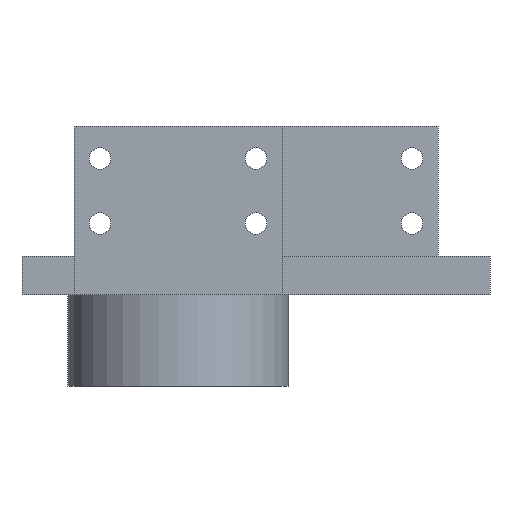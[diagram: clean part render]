
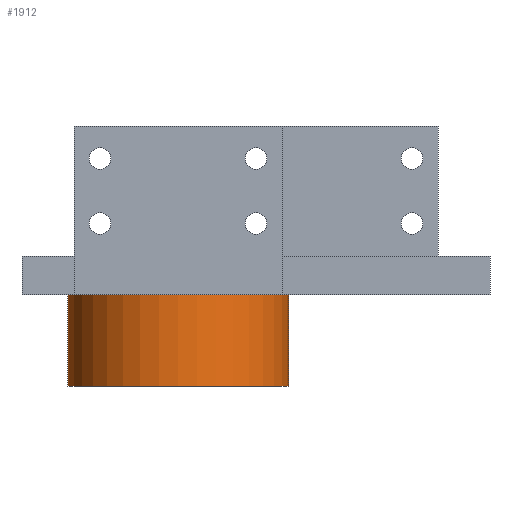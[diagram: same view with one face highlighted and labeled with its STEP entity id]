
A CAD part, front view. The second image highlights one B-rep face of the part: STEP entity #1912.
In plain terms, the highlighted cylindrical face has radius 17 mm (diameter 34 mm), a full revolution.
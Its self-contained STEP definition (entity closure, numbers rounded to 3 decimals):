
#72 = PLANE('',#73);
#73 = AXIS2_PLACEMENT_3D('',#74,#75,#76);
#74 = CARTESIAN_POINT('',(-24.,-19.8,-41.));
#75 = DIRECTION('',(0.,0.,1.));
#76 = DIRECTION('',(1.,0.,0.));
#737 = EDGE_CURVE('',#738,#738,#740,.T.);
#738 = VERTEX_POINT('',#739);
#739 = CARTESIAN_POINT('',(0.,17.,-41.));
#740 = SURFACE_CURVE('',#741,(#746,#757),.PCURVE_S1.);
#741 = CIRCLE('',#742,17.);
#742 = AXIS2_PLACEMENT_3D('',#743,#744,#745);
#743 = CARTESIAN_POINT('',(0.,0.,-41.));
#744 = DIRECTION('',(-0.,0.,-1.));
#745 = DIRECTION('',(0.,1.,0.));
#746 = PCURVE('',#72,#747);
#747 = DEFINITIONAL_REPRESENTATION('',(#748),#756);
#748 = ( BOUNDED_CURVE() B_SPLINE_CURVE(2,(#749,#750,#751,#752,#753,#754
,#755),.UNSPECIFIED.,.T.,.F.) B_SPLINE_CURVE_WITH_KNOTS((1,2,2,2,2,1),(
    -2.094,0.,2.094,4.189,6.283,
8.378),.UNSPECIFIED.) CURVE() GEOMETRIC_REPRESENTATION_ITEM() 
RATIONAL_B_SPLINE_CURVE((1.,0.5,1.,0.5,1.,0.5,1.)) REPRESENTATION_ITEM(
  '') );
#749 = CARTESIAN_POINT('',(24.,36.8));
#750 = CARTESIAN_POINT('',(53.445,36.8));
#751 = CARTESIAN_POINT('',(38.722,11.3));
#752 = CARTESIAN_POINT('',(24.,-14.2));
#753 = CARTESIAN_POINT('',(9.278,11.3));
#754 = CARTESIAN_POINT('',(-5.445,36.8));
#755 = CARTESIAN_POINT('',(24.,36.8));
#756 = ( GEOMETRIC_REPRESENTATION_CONTEXT(2) 
PARAMETRIC_REPRESENTATION_CONTEXT() REPRESENTATION_CONTEXT('2D SPACE',''
  ) );
#757 = PCURVE('',#758,#763);
#758 = CYLINDRICAL_SURFACE('',#759,17.);
#759 = AXIS2_PLACEMENT_3D('',#760,#761,#762);
#760 = CARTESIAN_POINT('',(0.,0.,-55.));
#761 = DIRECTION('',(-0.,0.,-1.));
#762 = DIRECTION('',(0.,1.,0.));
#763 = DEFINITIONAL_REPRESENTATION('',(#764),#768);
#764 = LINE('',#765,#766);
#765 = CARTESIAN_POINT('',(-6.283,-14.));
#766 = VECTOR('',#767,1.);
#767 = DIRECTION('',(1.,-0.));
#768 = ( GEOMETRIC_REPRESENTATION_CONTEXT(2) 
PARAMETRIC_REPRESENTATION_CONTEXT() REPRESENTATION_CONTEXT('2D SPACE',''
  ) );
#1912 = ADVANCED_FACE('',(#1913),#758,.T.);
#1913 = FACE_BOUND('',#1914,.F.);
#1914 = EDGE_LOOP('',(#1915,#1944,#1965,#1966));
#1915 = ORIENTED_EDGE('',*,*,#1916,.F.);
#1916 = EDGE_CURVE('',#1917,#1917,#1919,.T.);
#1917 = VERTEX_POINT('',#1918);
#1918 = CARTESIAN_POINT('',(0.,17.,-55.));
#1919 = SURFACE_CURVE('',#1920,(#1925,#1932),.PCURVE_S1.);
#1920 = CIRCLE('',#1921,17.);
#1921 = AXIS2_PLACEMENT_3D('',#1922,#1923,#1924);
#1922 = CARTESIAN_POINT('',(0.,0.,-55.));
#1923 = DIRECTION('',(0.,-0.,1.));
#1924 = DIRECTION('',(0.,1.,0.));
#1925 = PCURVE('',#758,#1926);
#1926 = DEFINITIONAL_REPRESENTATION('',(#1927),#1931);
#1927 = LINE('',#1928,#1929);
#1928 = CARTESIAN_POINT('',(-0.,0.));
#1929 = VECTOR('',#1930,1.);
#1930 = DIRECTION('',(-1.,0.));
#1931 = ( GEOMETRIC_REPRESENTATION_CONTEXT(2) 
PARAMETRIC_REPRESENTATION_CONTEXT() REPRESENTATION_CONTEXT('2D SPACE',''
  ) );
#1932 = PCURVE('',#1933,#1938);
#1933 = PLANE('',#1934);
#1934 = AXIS2_PLACEMENT_3D('',#1935,#1936,#1937);
#1935 = CARTESIAN_POINT('',(0.,0.,-55.
    ));
#1936 = DIRECTION('',(0.,0.,1.));
#1937 = DIRECTION('',(1.,0.,-0.));
#1938 = DEFINITIONAL_REPRESENTATION('',(#1939),#1943);
#1939 = CIRCLE('',#1940,17.);
#1940 = AXIS2_PLACEMENT_2D('',#1941,#1942);
#1941 = CARTESIAN_POINT('',(0.,0.));
#1942 = DIRECTION('',(0.,1.));
#1943 = ( GEOMETRIC_REPRESENTATION_CONTEXT(2) 
PARAMETRIC_REPRESENTATION_CONTEXT() REPRESENTATION_CONTEXT('2D SPACE',''
  ) );
#1944 = ORIENTED_EDGE('',*,*,#1945,.T.);
#1945 = EDGE_CURVE('',#1917,#738,#1946,.T.);
#1946 = SEAM_CURVE('',#1947,(#1951,#1958),.PCURVE_S1.);
#1947 = LINE('',#1948,#1949);
#1948 = CARTESIAN_POINT('',(0.,17.,-55.));
#1949 = VECTOR('',#1950,1.);
#1950 = DIRECTION('',(0.,0.,1.));
#1951 = PCURVE('',#758,#1952);
#1952 = DEFINITIONAL_REPRESENTATION('',(#1953),#1957);
#1953 = LINE('',#1954,#1955);
#1954 = CARTESIAN_POINT('',(-6.283,0.));
#1955 = VECTOR('',#1956,1.);
#1956 = DIRECTION('',(-0.,-1.));
#1957 = ( GEOMETRIC_REPRESENTATION_CONTEXT(2) 
PARAMETRIC_REPRESENTATION_CONTEXT() REPRESENTATION_CONTEXT('2D SPACE',''
  ) );
#1958 = PCURVE('',#758,#1959);
#1959 = DEFINITIONAL_REPRESENTATION('',(#1960),#1964);
#1960 = LINE('',#1961,#1962);
#1961 = CARTESIAN_POINT('',(-0.,0.));
#1962 = VECTOR('',#1963,1.);
#1963 = DIRECTION('',(-0.,-1.));
#1964 = ( GEOMETRIC_REPRESENTATION_CONTEXT(2) 
PARAMETRIC_REPRESENTATION_CONTEXT() REPRESENTATION_CONTEXT('2D SPACE',''
  ) );
#1965 = ORIENTED_EDGE('',*,*,#737,.F.);
#1966 = ORIENTED_EDGE('',*,*,#1945,.F.);
